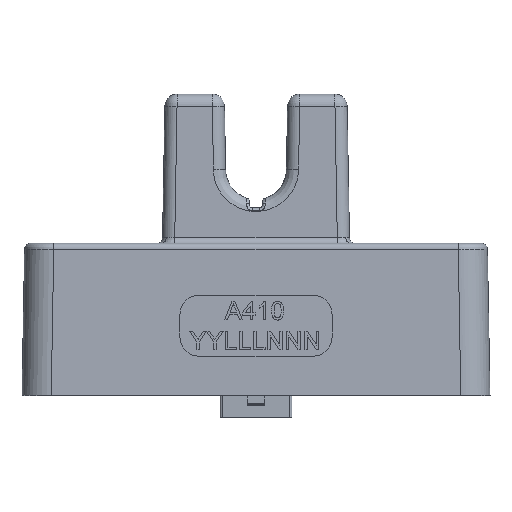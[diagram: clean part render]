
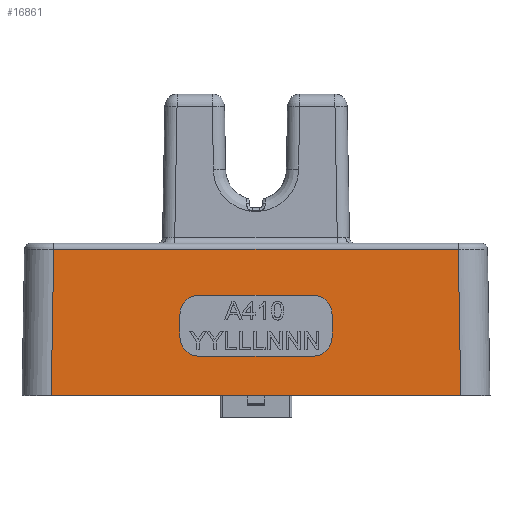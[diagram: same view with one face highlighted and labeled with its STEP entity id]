
A CAD part, top view. The second image highlights one B-rep face of the part: STEP entity #16861.
In plain terms, the highlighted planar face has unit normal (0, 0.018, 1).
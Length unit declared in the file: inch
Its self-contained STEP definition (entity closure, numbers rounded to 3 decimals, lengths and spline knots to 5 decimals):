
#9 = EDGE_CURVE ( 'NONE', #16246, #11749, #13436, .T. ) ;
#1967 = DIRECTION ( 'NONE',  ( -0.017, -1., 0.017 ) ) ;
#2147 = PLANE ( 'NONE',  #3173 ) ;
#2962 = CARTESIAN_POINT ( 'NONE',  ( -0.67326, -0.5, 0.3439 ) ) ;
#3173 = AXIS2_PLACEMENT_3D ( 'NONE', #7911, #13738, #18376 ) ;
#3413 = EDGE_LOOP ( 'NONE', ( #5820, #17747, #5955, #17186 ) ) ;
#3741 = DIRECTION ( 'NONE',  ( -1., 0., 0. ) ) ;
#4171 = CARTESIAN_POINT ( 'NONE',  ( -0.66488, -0.01965, 0.33552 ) ) ;
#4425 = CARTESIAN_POINT ( 'NONE',  ( 0.66488, -0.01965, 0.33552 ) ) ;
#5820 = ORIENTED_EDGE ( 'NONE', *, *, #10793, .T. ) ;
#5955 = ORIENTED_EDGE ( 'NONE', *, *, #9, .T. ) ;
#7911 = CARTESIAN_POINT ( 'NONE',  ( -0.76925, -0.5, 0.3439 ) ) ;
#7973 = LINE ( 'NONE', #15037, #14674 ) ;
#8725 = LINE ( 'NONE', #13121, #14382 ) ;
#9149 = CARTESIAN_POINT ( 'NONE',  ( -0.67329, -0.50167, 0.34393 ) ) ;
#9636 = LINE ( 'NONE', #16753, #14414 ) ;
#10793 = EDGE_CURVE ( 'NONE', #14258, #13894, #8725, .T. ) ;
#10860 = FACE_OUTER_BOUND ( 'NONE', #3413, .T. ) ;
#11700 = DIRECTION ( 'NONE',  ( -0.017, 1., -0.017 ) ) ;
#11749 = VERTEX_POINT ( 'NONE', #2962 ) ;
#11775 = VECTOR ( 'NONE', #1967, 39.37008 ) ;
#11915 = EDGE_CURVE ( 'NONE', #13894, #16246, #7973, .T. ) ;
#13121 = CARTESIAN_POINT ( 'NONE',  ( 0.67283, -0.47484, 0.34346 ) ) ;
#13251 = EDGE_CURVE ( 'NONE', #14258, #11749, #9636, .T. ) ;
#13436 = LINE ( 'NONE', #9149, #11775 ) ;
#13738 = DIRECTION ( 'NONE',  ( 0., 0.017, 1. ) ) ;
#13796 = DIRECTION ( 'NONE',  ( -1., 0., 0. ) ) ;
#13894 = VERTEX_POINT ( 'NONE', #4425 ) ;
#14258 = VERTEX_POINT ( 'NONE', #14302 ) ;
#14302 = CARTESIAN_POINT ( 'NONE',  ( 0.67326, -0.5, 0.3439 ) ) ;
#14382 = VECTOR ( 'NONE', #11700, 39.37008 ) ;
#14414 = VECTOR ( 'NONE', #3741, 39.37008 ) ;
#14674 = VECTOR ( 'NONE', #13796, 39.37008 ) ;
#15037 = CARTESIAN_POINT ( 'NONE',  ( -0.66454, -0.01965, 0.33552 ) ) ;
#16246 = VERTEX_POINT ( 'NONE', #4171 ) ;
#16753 = CARTESIAN_POINT ( 'NONE',  ( -0.76925, -0.5, 0.3439 ) ) ;
#16861 = ADVANCED_FACE ( 'NONE', ( #10860 ), #2147, .T. ) ;
#17186 = ORIENTED_EDGE ( 'NONE', *, *, #13251, .F. ) ;
#17747 = ORIENTED_EDGE ( 'NONE', *, *, #11915, .T. ) ;
#18376 = DIRECTION ( 'NONE',  ( 0., -1., 0.017 ) ) ;
